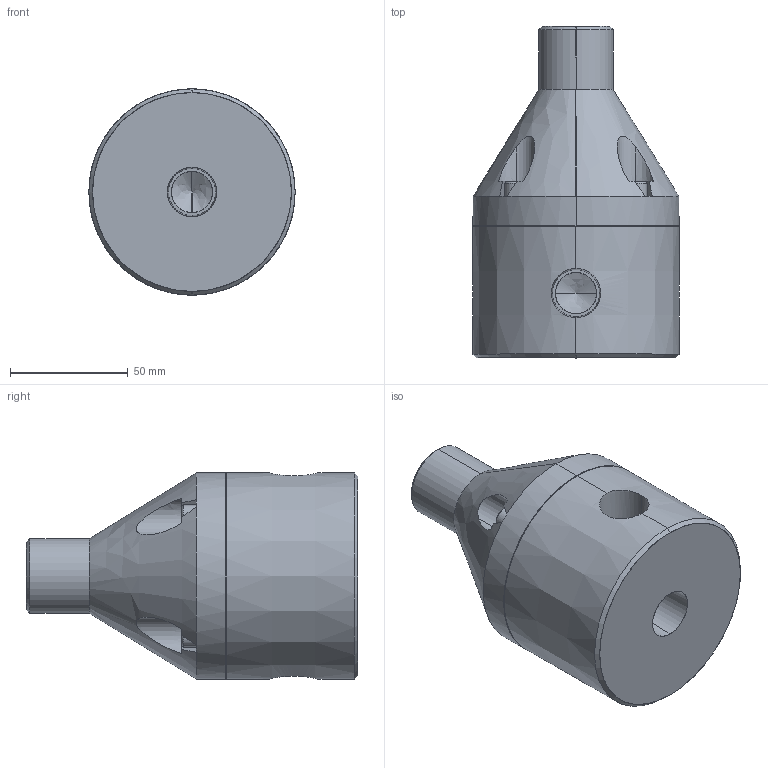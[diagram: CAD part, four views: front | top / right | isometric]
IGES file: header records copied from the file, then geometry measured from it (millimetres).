
Start section: SolidWorks IGES file using analytic representation for surfaces
Global section: file name: F:\Griffco-Valve\Griffco_current-projects\GV_web-files_2015\G Series\GPR0500-BSPT.IGS; native system: SolidWorks 2008; preprocessor: SolidWorks 2008; author: Dan; date: 150427.055715; units: inch
Bounding box: 87.63 x 140.97 x 87.63 mm (x, y, z)
Surface area: 51311.2 mm2 (no closed solid volume)
Topology: 0 solids, 0 shells, 134 faces, 2092 edges, 2086 vertices
Faces by surface type: bspline 74, revolution 60
